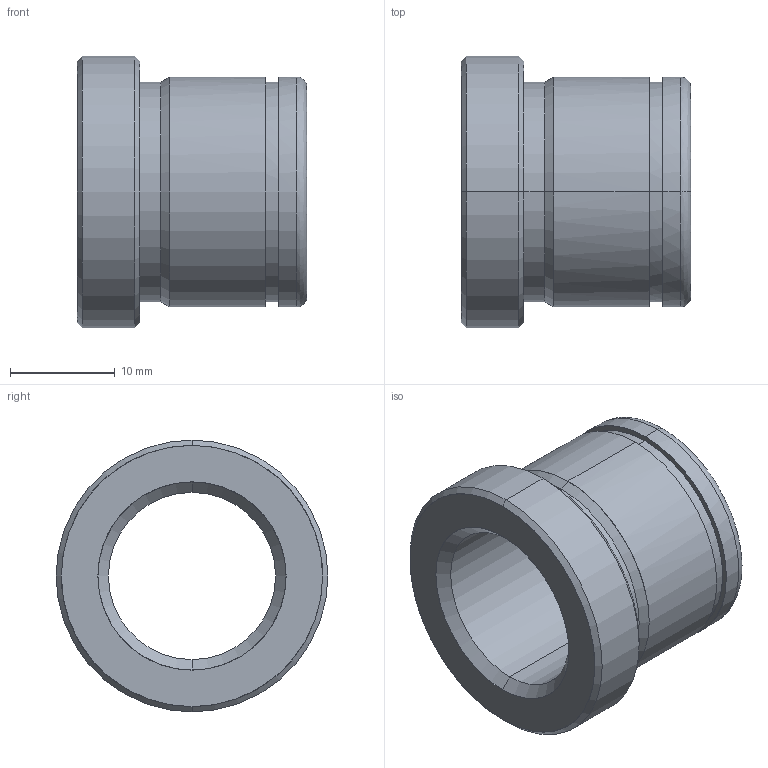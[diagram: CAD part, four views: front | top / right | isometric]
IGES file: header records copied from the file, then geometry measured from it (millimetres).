
Start section: START RECORD GO HERE.
Global section: file name: 553-16X22.igs; native system: DASSAULT SYSTEMES CATIA V5 R20 - www.3ds.com; preprocessor: CATIA Version 5 Release 20 ; author: Utente; organization: NB04-ASUS; date: 20210521.205937; units: millimetre
Bounding box: 22 x 26 x 26 mm (x, y, z)
Surface area: 3322 mm2 (no closed solid volume)
Topology: 0 solids, 0 shells, 29 faces, 184 edges, 184 vertices
Faces by surface type: revolution 24, plane 5
